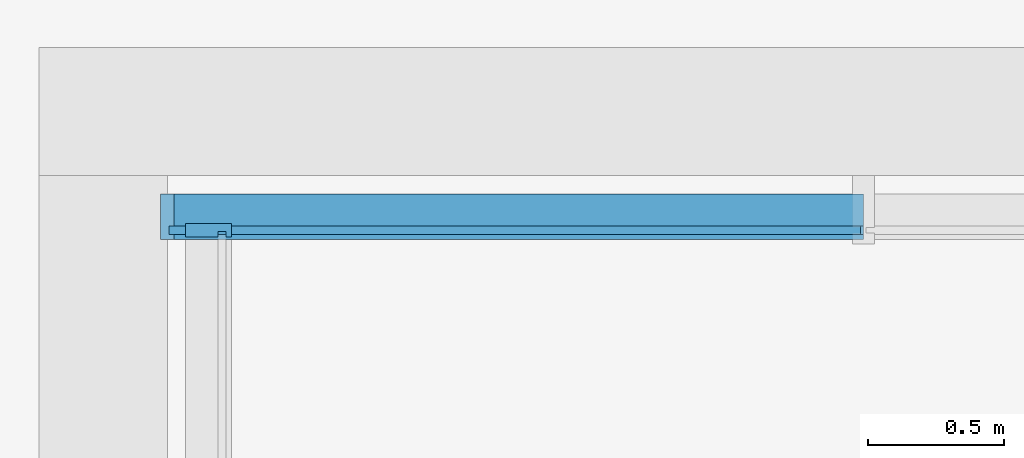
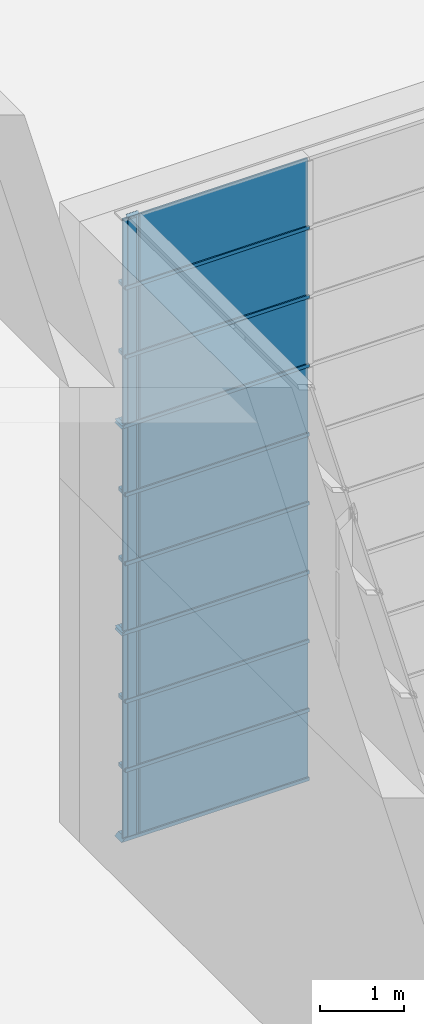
# One storey, part 29 of 105: 29 building element parts, 6 elements without a shape of their own.
"""IFC4 building model written with IfcOpenShell, lengths in millimetres."""

from ifc_helpers import new_model, entity, si_unit, converted_unit, derived_unit, direction, frame, origin_with_axes, place, context, subcontext, project, spatial, triangles, material, element, aggregate, save


model = new_model("IFC4")

# Units and contexts
model_context = context("Model", 3, precision=1e-05, world=origin_with_axes(), true_north=direction((0.0, 1.0)))
body_context = subcontext(model_context, "Body", "Model", "MODEL_VIEW")
ifc_project = project(units=[si_unit("LENGTHUNIT", "METRE", prefix="MILLI"), si_unit("AREAUNIT", "SQUARE_METRE"), si_unit("VOLUMEUNIT", "CUBIC_METRE"), converted_unit("PLANEANGLEUNIT", "DEGREE", entity("IfcLengthMeasure", 0.017453), si_unit("PLANEANGLEUNIT", "RADIAN"), dimensions=[0, 0, 0, 0, 0, 0, 0]), si_unit("SOLIDANGLEUNIT", "STERADIAN"), si_unit("MASSUNIT", "GRAM"), si_unit("TIMEUNIT", "SECOND"), si_unit("THERMODYNAMICTEMPERATUREUNIT", "DEGREE_CELSIUS"), si_unit("LUMINOUSINTENSITYUNIT", "LUMEN"), si_unit("POWERUNIT", "WATT"), derived_unit("THERMALTRANSMITTANCEUNIT", [(si_unit("POWERUNIT", "WATT"), 1), (si_unit("THERMODYNAMICTEMPERATUREUNIT", "KELVIN"), -1), (si_unit("AREAUNIT", "SQUARE_METRE"), -1)])], contexts=[model_context])

# Site, building, storey
site_placement = place(None, origin_with_axes())
site = spatial("IfcSite", under=ifc_project, at=site_placement, Name="Default Site", CompositionType="ELEMENT")
building_placement = place(site_placement, origin_with_axes())
building = spatial("IfcBuilding", under=site, at=building_placement, Name="Default Building", CompositionType="ELEMENT")
storey_placement = place(building_placement, origin_with_axes())
storey = spatial("IfcBuildingStorey", under=building, at=storey_placement, Name="OG - Story", CompositionType="ELEMENT", Elevation=0.0)

# Curtain wall, building element parts
curtain_wall_1_placement = place(storey_placement, origin_with_axes())
curtain_wall_1 = element("IfcCurtainWall", 1, at=curtain_wall_1_placement, inside=storey, Name="Fassade-005", PredefinedType="NOTDEFINED")
ifc_material_1 = material(Name="Normalglas")
building_element_part_1_placement = place(curtain_wall_1_placement, frame((52496.845873, -27789.262838, 3000.0), z_axis=(0.0, 0.0, 1.0), x_axis=(1.0, 0.0, 0.0)))
building_element_part_1 = element("IfcBuildingElementPart", 2, at=building_element_part_1_placement, material=ifc_material_1, Name="Normalglas", PredefinedType="NOTDEFINED", context=body_context, shape_type="Tessellation", body=[
    triangles([(1265.455, 15.0, 995.0), (-1270.454, 15.0, 995.0), (-1270.454, -14.999, 995.0), (1265.455, -14.999, 995.0), (1265.455, 15.0, 5.0), (-1270.454, 15.0, 5.0), (-1270.454, -14.999, 5.0), (1265.455, -14.999, 5.0)], [[1, 2, 3], [1, 3, 4], [1, 5, 6], [1, 6, 2], [2, 6, 7], [2, 7, 3], [4, 3, 7], [4, 7, 8], [5, 1, 4], [5, 4, 8], [6, 5, 8], [6, 8, 7]], closed=False),
])
building_element_part_2_placement = place(curtain_wall_1_placement, frame((52496.845873, -27789.262838, 3000.0), z_axis=(0.0, 0.0, 1.0), x_axis=(1.0, 0.0, 0.0)))
building_element_part_2 = element("IfcBuildingElementPart", 3, at=building_element_part_2_placement, material=ifc_material_1, Name="Normalglas", PredefinedType="NOTDEFINED", context=body_context, shape_type="Tessellation", body=[
    triangles([(1265.455, 15.0, 1995.0), (-1270.454, 15.0, 1995.0), (-1270.454, -14.999, 1995.0), (1265.455, -14.999, 1995.0), (1265.455, 15.0, 1005.0), (-1270.454, 15.0, 1005.0), (-1270.454, -14.999, 1005.0), (1265.455, -14.999, 1005.0)], [[1, 2, 3], [1, 3, 4], [1, 5, 6], [1, 6, 2], [2, 6, 7], [2, 7, 3], [4, 3, 7], [4, 7, 8], [5, 1, 4], [5, 4, 8], [6, 5, 8], [6, 8, 7]], closed=False),
])
building_element_part_3_placement = place(curtain_wall_1_placement, frame((52496.845873, -27789.262838, 3000.0), z_axis=(0.0, 0.0, 1.0), x_axis=(1.0, 0.0, 0.0)))
building_element_part_3 = element("IfcBuildingElementPart", 4, at=building_element_part_3_placement, material=ifc_material_1, Name="Normalglas", PredefinedType="NOTDEFINED", context=body_context, shape_type="Tessellation", body=[
    triangles([(1265.455, 15.0, 2995.0), (-1270.454, 15.0, 2995.0), (-1270.454, -14.999, 2995.0), (1265.455, -14.999, 2995.0), (1265.455, 15.0, 2005.0), (-1270.454, 15.0, 2005.0), (-1270.454, -14.999, 2005.0), (1265.455, -14.999, 2005.0)], [[1, 2, 3], [1, 3, 4], [1, 5, 6], [1, 6, 2], [2, 6, 7], [2, 7, 3], [4, 3, 7], [4, 7, 8], [5, 1, 4], [5, 4, 8], [6, 5, 8], [6, 8, 7]], closed=False),
])
ifc_material_2 = material(Name="Blech")
building_element_part_4_placement = place(curtain_wall_1_placement, frame((52496.845873, -27789.262838, 3000.0), z_axis=(0.0, 0.0, 1.0), x_axis=(1.0, 0.0, 0.0)))
building_element_part_4 = element("IfcBuildingElementPart", 5, at=building_element_part_4_placement, material=ifc_material_2, Name="Blech", PredefinedType="NOTDEFINED", context=body_context, shape_type="Tessellation", body=[
    triangles([(1275.455, 15.0, 25.0), (1275.455, 133.0, 25.0), (1275.455, 15.0, 5.0), (1275.455, 133.0, -24.999), (1275.455, -14.999, 5.0), (1275.455, -34.999, -24.999), (1275.455, -14.999, 25.0), (1275.455, -34.999, 25.0), (-1270.454, 15.0, 5.0), (-1270.454, -14.999, 5.0), (-1250.454, -14.999, 25.0), (-1250.454, -34.999, 25.0), (-1300.454, -34.999, -24.999), (-1300.454, 133.0, -24.999), (-1250.454, 133.0, 25.0), (-1250.454, 15.0, 25.0)], [[1, 2, 3], [3, 2, 4], [3, 4, 5], [5, 4, 6], [5, 6, 7], [7, 6, 8], [5, 3, 9], [5, 9, 10], [11, 7, 5], [11, 5, 10], [7, 11, 12], [7, 12, 8], [6, 8, 12], [6, 12, 13], [4, 6, 13], [4, 13, 14], [2, 4, 14], [2, 14, 15], [16, 1, 2], [16, 2, 15], [3, 1, 16], [3, 16, 9], [16, 15, 9], [9, 15, 14], [9, 14, 10], [10, 14, 13], [10, 13, 11], [11, 13, 12]], closed=False),
])
building_element_part_5_placement = place(curtain_wall_1_placement, frame((52496.845873, -27789.262838, 3000.0), z_axis=(0.0, 0.0, 1.0), x_axis=(1.0, 0.0, 0.0)))
building_element_part_5 = element("IfcBuildingElementPart", 6, at=building_element_part_5_placement, material=ifc_material_2, Name="Blech", PredefinedType="NOTDEFINED", context=body_context, shape_type="Tessellation", body=[
    triangles([(1275.455, 133.0, 1025.0), (1275.455, 15.0, 1025.0), (1275.455, 133.0, 975.0), (1275.455, 15.0, 1005.0), (1275.455, 15.0, 995.0), (1275.455, -14.999, 1005.0), (1275.455, -14.999, 995.0), (1275.455, -14.999, 975.0), (1275.455, -14.999, 1025.0), (1275.455, -34.999, 1025.0), (1275.455, -34.999, 975.0), (1275.455, 15.0, 975.0), (-1250.454, 15.0, 995.0), (-1250.454, 15.0, 975.0), (-1250.454, 133.0, 975.0), (-1250.454, 133.0, 1025.0), (-1250.454, 15.0, 1025.0), (-1250.454, 15.0, 1005.0), (-1250.454, -14.999, 1005.0), (-1250.454, -14.999, 1025.0), (-1250.454, -34.999, 1025.0), (-1250.454, -34.999, 975.0), (-1250.454, -14.999, 975.0), (-1250.454, -14.999, 995.0)], [[1, 2, 3], [3, 2, 4], [3, 4, 5], [5, 4, 6], [5, 6, 7], [8, 9, 10], [8, 10, 11], [3, 5, 12], [12, 5, 13], [12, 13, 14], [12, 14, 15], [12, 15, 3], [3, 15, 16], [3, 16, 1], [2, 1, 16], [2, 16, 17], [2, 17, 18], [2, 18, 4], [4, 18, 19], [4, 19, 6], [9, 6, 19], [9, 19, 20], [20, 21, 10], [20, 10, 9], [10, 21, 22], [10, 22, 11], [23, 8, 11], [23, 11, 22], [7, 8, 23], [7, 23, 24], [5, 7, 24], [5, 24, 13], [15, 14, 16], [16, 14, 13], [16, 13, 18], [18, 13, 24], [18, 24, 19], [20, 23, 22], [20, 22, 21], [16, 18, 17]], closed=False),
])
building_element_part_6_placement = place(curtain_wall_1_placement, frame((52496.845873, -27789.262838, 3000.0), z_axis=(0.0, 0.0, 1.0), x_axis=(1.0, 0.0, 0.0)))
building_element_part_6 = element("IfcBuildingElementPart", 7, at=building_element_part_6_placement, material=ifc_material_2, Name="Blech", PredefinedType="NOTDEFINED", context=body_context, shape_type="Tessellation", body=[
    triangles([(1275.455, 133.0, 2025.0), (1275.455, 15.0, 2025.0), (1275.455, 133.0, 1975.0), (1275.455, 15.0, 2005.0), (1275.455, 15.0, 1995.0), (1275.455, -14.999, 2005.0), (1275.455, -14.999, 1995.0), (1275.455, -14.999, 1975.0), (1275.455, -14.999, 2025.0), (1275.455, -34.999, 2025.0), (1275.455, -34.999, 1975.0), (1275.455, 15.0, 1975.0), (-1250.454, 15.0, 1995.0), (-1250.454, 15.0, 1975.0), (-1250.454, 133.0, 1975.0), (-1250.454, 133.0, 2025.0), (-1250.454, 15.0, 2025.0), (-1250.454, 15.0, 2005.0), (-1250.454, -14.999, 2005.0), (-1250.454, -14.999, 2025.0), (-1250.454, -34.999, 2025.0), (-1250.454, -34.999, 1975.0), (-1250.454, -14.999, 1975.0), (-1250.454, -14.999, 1995.0)], [[1, 2, 3], [3, 2, 4], [3, 4, 5], [5, 4, 6], [5, 6, 7], [8, 9, 10], [8, 10, 11], [3, 5, 12], [12, 5, 13], [12, 13, 14], [12, 14, 15], [12, 15, 3], [3, 15, 16], [3, 16, 1], [2, 1, 16], [2, 16, 17], [2, 17, 18], [2, 18, 4], [4, 18, 19], [4, 19, 6], [9, 6, 19], [9, 19, 20], [20, 21, 10], [20, 10, 9], [10, 21, 22], [10, 22, 11], [23, 8, 11], [23, 11, 22], [7, 8, 23], [7, 23, 24], [5, 7, 24], [5, 24, 13], [15, 14, 16], [16, 14, 13], [16, 13, 18], [18, 13, 24], [18, 24, 19], [20, 23, 22], [20, 22, 21], [16, 18, 17]], closed=False),
])
building_element_part_7_placement = place(curtain_wall_1_placement, frame((52496.845873, -27789.262838, 3000.0), z_axis=(0.0, 0.0, 1.0), x_axis=(1.0, 0.0, 0.0)))
building_element_part_7 = element("IfcBuildingElementPart", 8, at=building_element_part_7_placement, material=ifc_material_2, Name="Blech", PredefinedType="NOTDEFINED", context=body_context, shape_type="Tessellation", body=[
    triangles([(1275.455, 15.0, 2975.0), (1275.455, 133.0, 2975.0), (1275.455, 15.0, 2995.0), (1275.455, 133.0, 3025.0), (1275.455, -14.999, 2995.0), (1275.455, -34.999, 3025.0), (1275.455, -14.999, 2975.0), (1275.455, -34.999, 2975.0), (-1270.454, 15.0, 2995.0), (-1250.454, 15.0, 2975.0), (-1250.454, 133.0, 2975.0), (-1300.454, 133.0, 3025.0), (-1300.454, -34.999, 3025.0), (-1250.454, -34.999, 2975.0), (-1250.454, -14.999, 2975.0), (-1270.454, -14.999, 2995.0)], [[1, 2, 3], [3, 2, 4], [3, 4, 5], [5, 4, 6], [5, 6, 7], [7, 6, 8], [3, 9, 10], [3, 10, 1], [10, 11, 2], [10, 2, 1], [2, 11, 12], [2, 12, 4], [4, 12, 13], [4, 13, 6], [6, 13, 14], [6, 14, 8], [7, 8, 14], [7, 14, 15], [15, 16, 5], [15, 5, 7], [5, 16, 9], [5, 9, 3], [10, 11, 9], [9, 11, 12], [9, 12, 16], [16, 12, 13], [16, 13, 15], [15, 13, 14]], closed=False),
])
aggregate(curtain_wall_1, [building_element_part_1, building_element_part_2, building_element_part_3, building_element_part_4, building_element_part_5, building_element_part_6, building_element_part_7])

curtain_wall_2_placement = place(storey_placement, origin_with_axes())
curtain_wall_2 = element("IfcCurtainWall", 9, at=curtain_wall_2_placement, inside=storey, Name="Fassade-005", PredefinedType="NOTDEFINED")
building_element_part_8_placement = place(curtain_wall_2_placement, frame((52496.845873, -27789.262838, 6000.0), z_axis=(0.0, 0.0, 1.0), x_axis=(1.0, 0.0, 0.0)))
building_element_part_8 = element("IfcBuildingElementPart", 10, at=building_element_part_8_placement, material=ifc_material_1, Name="Normalglas", PredefinedType="NOTDEFINED", context=body_context, shape_type="Tessellation", body=[
    triangles([(1265.455, 15.0, 995.0), (-1270.454, 15.0, 995.0), (-1270.454, -14.999, 995.0), (1265.455, -14.999, 995.0), (1265.455, 15.0, 5.0), (-1270.454, 15.0, 5.0), (-1270.454, -14.999, 5.0), (1265.455, -14.999, 5.0)], [[1, 2, 3], [1, 3, 4], [1, 5, 6], [1, 6, 2], [2, 6, 7], [2, 7, 3], [4, 3, 7], [4, 7, 8], [5, 1, 4], [5, 4, 8], [6, 5, 8], [6, 8, 7]], closed=False),
])
building_element_part_9_placement = place(curtain_wall_2_placement, frame((52496.845873, -27789.262838, 6000.0), z_axis=(0.0, 0.0, 1.0), x_axis=(1.0, 0.0, 0.0)))
building_element_part_9 = element("IfcBuildingElementPart", 11, at=building_element_part_9_placement, material=ifc_material_1, Name="Normalglas", PredefinedType="NOTDEFINED", context=body_context, shape_type="Tessellation", body=[
    triangles([(1265.455, 15.0, 1995.0), (-1270.454, 15.0, 1995.0), (-1270.454, -14.999, 1995.0), (1265.455, -14.999, 1995.0), (1265.455, 15.0, 1005.0), (-1270.454, 15.0, 1005.0), (-1270.454, -14.999, 1005.0), (1265.455, -14.999, 1005.0)], [[1, 2, 3], [1, 3, 4], [1, 5, 6], [1, 6, 2], [2, 6, 7], [2, 7, 3], [4, 3, 7], [4, 7, 8], [5, 1, 4], [5, 4, 8], [6, 5, 8], [6, 8, 7]], closed=False),
])
building_element_part_10_placement = place(curtain_wall_2_placement, frame((52496.845873, -27789.262838, 6000.0), z_axis=(0.0, 0.0, 1.0), x_axis=(1.0, 0.0, 0.0)))
building_element_part_10 = element("IfcBuildingElementPart", 12, at=building_element_part_10_placement, material=ifc_material_1, Name="Normalglas", PredefinedType="NOTDEFINED", context=body_context, shape_type="Tessellation", body=[
    triangles([(1265.455, 15.0, 2995.0), (-1270.454, 15.0, 2995.0), (-1270.454, -14.999, 2995.0), (1265.455, -14.999, 2995.0), (1265.455, 15.0, 2005.0), (-1270.454, 15.0, 2005.0), (-1270.454, -14.999, 2005.0), (1265.455, -14.999, 2005.0)], [[1, 2, 3], [1, 3, 4], [1, 5, 6], [1, 6, 2], [2, 6, 7], [2, 7, 3], [4, 3, 7], [4, 7, 8], [5, 1, 4], [5, 4, 8], [6, 5, 8], [6, 8, 7]], closed=False),
])
building_element_part_11_placement = place(curtain_wall_2_placement, frame((52496.845873, -27789.262838, 6000.0), z_axis=(0.0, 0.0, 1.0), x_axis=(1.0, 0.0, 0.0)))
building_element_part_11 = element("IfcBuildingElementPart", 13, at=building_element_part_11_placement, material=ifc_material_2, Name="Blech", PredefinedType="NOTDEFINED", context=body_context, shape_type="Tessellation", body=[
    triangles([(1275.455, 15.0, 25.0), (1275.455, 133.0, 25.0), (1275.455, 15.0, 5.0), (1275.455, 133.0, -24.999), (1275.455, -14.999, 5.0), (1275.455, -34.999, -24.999), (1275.455, -14.999, 25.0), (1275.455, -34.999, 25.0), (-1270.454, 15.0, 5.0), (-1270.454, -14.999, 5.0), (-1250.454, -14.999, 25.0), (-1250.454, -34.999, 25.0), (-1300.454, -34.999, -24.999), (-1300.454, 133.0, -24.999), (-1250.454, 133.0, 25.0), (-1250.454, 15.0, 25.0)], [[1, 2, 3], [3, 2, 4], [3, 4, 5], [5, 4, 6], [5, 6, 7], [7, 6, 8], [5, 3, 9], [5, 9, 10], [11, 7, 5], [11, 5, 10], [7, 11, 12], [7, 12, 8], [6, 8, 12], [6, 12, 13], [4, 6, 13], [4, 13, 14], [2, 4, 14], [2, 14, 15], [16, 1, 2], [16, 2, 15], [3, 1, 16], [3, 16, 9], [16, 15, 9], [9, 15, 14], [9, 14, 10], [10, 14, 13], [10, 13, 11], [11, 13, 12]], closed=False),
])
building_element_part_12_placement = place(curtain_wall_2_placement, frame((52496.845873, -27789.262838, 6000.0), z_axis=(0.0, 0.0, 1.0), x_axis=(1.0, 0.0, 0.0)))
building_element_part_12 = element("IfcBuildingElementPart", 14, at=building_element_part_12_placement, material=ifc_material_2, Name="Blech", PredefinedType="NOTDEFINED", context=body_context, shape_type="Tessellation", body=[
    triangles([(1275.455, 133.0, 1025.0), (1275.455, 15.0, 1025.0), (1275.455, 133.0, 975.0), (1275.455, 15.0, 1005.0), (1275.455, 15.0, 995.0), (1275.455, -14.999, 1005.0), (1275.455, -14.999, 995.0), (1275.455, -14.999, 975.0), (1275.455, -14.999, 1025.0), (1275.455, -34.999, 1025.0), (1275.455, -34.999, 975.0), (1275.455, 15.0, 975.0), (-1250.454, 15.0, 995.0), (-1250.454, 15.0, 975.0), (-1250.454, 133.0, 975.0), (-1250.454, 133.0, 1025.0), (-1250.454, 15.0, 1025.0), (-1250.454, 15.0, 1005.0), (-1250.454, -14.999, 1005.0), (-1250.454, -14.999, 1025.0), (-1250.454, -34.999, 1025.0), (-1250.454, -34.999, 975.0), (-1250.454, -14.999, 975.0), (-1250.454, -14.999, 995.0)], [[1, 2, 3], [3, 2, 4], [3, 4, 5], [5, 4, 6], [5, 6, 7], [8, 9, 10], [8, 10, 11], [3, 5, 12], [12, 5, 13], [12, 13, 14], [12, 14, 15], [12, 15, 3], [3, 15, 16], [3, 16, 1], [2, 1, 16], [2, 16, 17], [2, 17, 18], [2, 18, 4], [4, 18, 19], [4, 19, 6], [9, 6, 19], [9, 19, 20], [20, 21, 10], [20, 10, 9], [10, 21, 22], [10, 22, 11], [23, 8, 11], [23, 11, 22], [7, 8, 23], [7, 23, 24], [5, 7, 24], [5, 24, 13], [15, 14, 16], [16, 14, 13], [16, 13, 18], [18, 13, 24], [18, 24, 19], [20, 23, 22], [20, 22, 21], [16, 18, 17]], closed=False),
])
building_element_part_13_placement = place(curtain_wall_2_placement, frame((52496.845873, -27789.262838, 6000.0), z_axis=(0.0, 0.0, 1.0), x_axis=(1.0, 0.0, 0.0)))
building_element_part_13 = element("IfcBuildingElementPart", 15, at=building_element_part_13_placement, material=ifc_material_2, Name="Blech", PredefinedType="NOTDEFINED", context=body_context, shape_type="Tessellation", body=[
    triangles([(1275.455, 133.0, 2025.0), (1275.455, 15.0, 2025.0), (1275.455, 133.0, 1975.0), (1275.455, 15.0, 2005.0), (1275.455, 15.0, 1995.0), (1275.455, -14.999, 2005.0), (1275.455, -14.999, 1995.0), (1275.455, -14.999, 1975.0), (1275.455, -14.999, 2025.0), (1275.455, -34.999, 2025.0), (1275.455, -34.999, 1975.0), (1275.455, 15.0, 1975.0), (-1250.454, 15.0, 1995.0), (-1250.454, 15.0, 1975.0), (-1250.454, 133.0, 1975.0), (-1250.454, 133.0, 2025.0), (-1250.454, 15.0, 2025.0), (-1250.454, 15.0, 2005.0), (-1250.454, -14.999, 2005.0), (-1250.454, -14.999, 2025.0), (-1250.454, -34.999, 2025.0), (-1250.454, -34.999, 1975.0), (-1250.454, -14.999, 1975.0), (-1250.454, -14.999, 1995.0)], [[1, 2, 3], [3, 2, 4], [3, 4, 5], [5, 4, 6], [5, 6, 7], [8, 9, 10], [8, 10, 11], [3, 5, 12], [12, 5, 13], [12, 13, 14], [12, 14, 15], [12, 15, 3], [3, 15, 16], [3, 16, 1], [2, 1, 16], [2, 16, 17], [2, 17, 18], [2, 18, 4], [4, 18, 19], [4, 19, 6], [9, 6, 19], [9, 19, 20], [20, 21, 10], [20, 10, 9], [10, 21, 22], [10, 22, 11], [23, 8, 11], [23, 11, 22], [7, 8, 23], [7, 23, 24], [5, 7, 24], [5, 24, 13], [15, 14, 16], [16, 14, 13], [16, 13, 18], [18, 13, 24], [18, 24, 19], [20, 23, 22], [20, 22, 21], [16, 18, 17]], closed=False),
])
building_element_part_14_placement = place(curtain_wall_2_placement, frame((52496.845873, -27789.262838, 6000.0), z_axis=(0.0, 0.0, 1.0), x_axis=(1.0, 0.0, 0.0)))
building_element_part_14 = element("IfcBuildingElementPart", 16, at=building_element_part_14_placement, material=ifc_material_2, Name="Blech", PredefinedType="NOTDEFINED", context=body_context, shape_type="Tessellation", body=[
    triangles([(1275.455, 15.0, 2975.0), (1275.455, 133.0, 2975.0), (1275.455, 15.0, 2995.0), (1275.455, 133.0, 3025.0), (1275.455, -14.999, 2995.0), (1275.455, -34.999, 3025.0), (1275.455, -14.999, 2975.0), (1275.455, -34.999, 2975.0), (-1270.454, 15.0, 2995.0), (-1250.454, 15.0, 2975.0), (-1250.454, 133.0, 2975.0), (-1300.454, 133.0, 3025.0), (-1300.454, -34.999, 3025.0), (-1250.454, -34.999, 2975.0), (-1250.454, -14.999, 2975.0), (-1270.454, -14.999, 2995.0)], [[1, 2, 3], [3, 2, 4], [3, 4, 5], [5, 4, 6], [5, 6, 7], [7, 6, 8], [3, 9, 10], [3, 10, 1], [10, 11, 2], [10, 2, 1], [2, 11, 12], [2, 12, 4], [4, 12, 13], [4, 13, 6], [6, 13, 14], [6, 14, 8], [7, 8, 14], [7, 14, 15], [15, 16, 5], [15, 5, 7], [5, 16, 9], [5, 9, 3], [10, 11, 9], [9, 11, 12], [9, 12, 16], [16, 12, 13], [16, 13, 15], [15, 13, 14]], closed=False),
])
aggregate(curtain_wall_2, [building_element_part_8, building_element_part_9, building_element_part_10, building_element_part_11, building_element_part_12, building_element_part_13, building_element_part_14])

curtain_wall_3_placement = place(storey_placement, origin_with_axes())
curtain_wall_3 = element("IfcCurtainWall", 17, at=curtain_wall_3_placement, inside=storey, Name="Fassade-005", PredefinedType="NOTDEFINED")
building_element_part_15_placement = place(curtain_wall_3_placement, frame((52496.845873, -27789.262838, 9000.0), z_axis=(0.0, 0.0, 1.0), x_axis=(1.0, 0.0, 0.0)))
building_element_part_15 = element("IfcBuildingElementPart", 18, at=building_element_part_15_placement, material=ifc_material_1, Name="Normalglas", PredefinedType="NOTDEFINED", context=body_context, shape_type="Tessellation", body=[
    triangles([(1265.455, 15.0, 995.0), (-1270.454, 15.0, 995.0), (-1270.454, -14.999, 995.0), (1265.455, -14.999, 995.0), (1265.455, 15.0, 5.0), (-1270.454, 15.0, 5.0), (-1270.454, -14.999, 5.0), (1265.455, -14.999, 5.0)], [[1, 2, 3], [1, 3, 4], [1, 5, 6], [1, 6, 2], [2, 6, 7], [2, 7, 3], [4, 3, 7], [4, 7, 8], [5, 1, 4], [5, 4, 8], [6, 5, 8], [6, 8, 7]], closed=False),
])
building_element_part_16_placement = place(curtain_wall_3_placement, frame((52496.845873, -27789.262838, 9000.0), z_axis=(0.0, 0.0, 1.0), x_axis=(1.0, 0.0, 0.0)))
building_element_part_16 = element("IfcBuildingElementPart", 19, at=building_element_part_16_placement, material=ifc_material_1, Name="Normalglas", PredefinedType="NOTDEFINED", context=body_context, shape_type="Tessellation", body=[
    triangles([(1265.455, 15.0, 1995.0), (-1270.454, 15.0, 1995.0), (-1270.454, -14.999, 1995.0), (1265.455, -14.999, 1995.0), (1265.455, 15.0, 1005.0), (-1270.454, 15.0, 1005.0), (-1270.454, -14.999, 1005.0), (1265.455, -14.999, 1005.0)], [[1, 2, 3], [1, 3, 4], [1, 5, 6], [1, 6, 2], [2, 6, 7], [2, 7, 3], [4, 3, 7], [4, 7, 8], [5, 1, 4], [5, 4, 8], [6, 5, 8], [6, 8, 7]], closed=False),
])
building_element_part_17_placement = place(curtain_wall_3_placement, frame((52496.845873, -27789.262838, 9000.0), z_axis=(0.0, 0.0, 1.0), x_axis=(1.0, 0.0, 0.0)))
building_element_part_17 = element("IfcBuildingElementPart", 20, at=building_element_part_17_placement, material=ifc_material_1, Name="Normalglas", PredefinedType="NOTDEFINED", context=body_context, shape_type="Tessellation", body=[
    triangles([(1265.455, 15.0, 2995.0), (-1270.454, 15.0, 2995.0), (-1270.454, -14.999, 2995.0), (1265.455, -14.999, 2995.0), (1265.455, 15.0, 2005.0), (-1270.454, 15.0, 2005.0), (-1270.454, -14.999, 2005.0), (1265.455, -14.999, 2005.0)], [[1, 2, 3], [1, 3, 4], [1, 5, 6], [1, 6, 2], [2, 6, 7], [2, 7, 3], [4, 3, 7], [4, 7, 8], [5, 1, 4], [5, 4, 8], [6, 5, 8], [6, 8, 7]], closed=False),
])
building_element_part_18_placement = place(curtain_wall_3_placement, frame((52496.845873, -27789.262838, 9000.0), z_axis=(0.0, 0.0, 1.0), x_axis=(1.0, 0.0, 0.0)))
building_element_part_18 = element("IfcBuildingElementPart", 21, at=building_element_part_18_placement, material=ifc_material_2, Name="Blech", PredefinedType="NOTDEFINED", context=body_context, shape_type="Tessellation", body=[
    triangles([(1275.455, 15.0, 25.0), (1275.455, 133.0, 25.0), (1275.455, 15.0, 5.0), (1275.455, 133.0, -24.999), (1275.455, -14.999, 5.0), (1275.455, -34.999, -24.999), (1275.455, -14.999, 25.0), (1275.455, -34.999, 25.0), (-1270.454, 15.0, 5.0), (-1270.454, -14.999, 5.0), (-1250.454, -14.999, 25.0), (-1250.454, -34.999, 25.0), (-1300.454, -34.999, -24.999), (-1300.454, 133.0, -24.999), (-1250.454, 133.0, 25.0), (-1250.454, 15.0, 25.0)], [[1, 2, 3], [3, 2, 4], [3, 4, 5], [5, 4, 6], [5, 6, 7], [7, 6, 8], [5, 3, 9], [5, 9, 10], [11, 7, 5], [11, 5, 10], [7, 11, 12], [7, 12, 8], [6, 8, 12], [6, 12, 13], [4, 6, 13], [4, 13, 14], [2, 4, 14], [2, 14, 15], [16, 1, 2], [16, 2, 15], [3, 1, 16], [3, 16, 9], [16, 15, 9], [9, 15, 14], [9, 14, 10], [10, 14, 13], [10, 13, 11], [11, 13, 12]], closed=False),
])
building_element_part_19_placement = place(curtain_wall_3_placement, frame((52496.845873, -27789.262838, 9000.0), z_axis=(0.0, 0.0, 1.0), x_axis=(1.0, 0.0, 0.0)))
building_element_part_19 = element("IfcBuildingElementPart", 22, at=building_element_part_19_placement, material=ifc_material_2, Name="Blech", PredefinedType="NOTDEFINED", context=body_context, shape_type="Tessellation", body=[
    triangles([(1275.455, 133.0, 1025.0), (1275.455, 15.0, 1025.0), (1275.455, 133.0, 975.0), (1275.455, 15.0, 1005.0), (1275.455, 15.0, 995.0), (1275.455, -14.999, 1005.0), (1275.455, -14.999, 995.0), (1275.455, -14.999, 975.0), (1275.455, -14.999, 1025.0), (1275.455, -34.999, 1025.0), (1275.455, -34.999, 975.0), (1275.455, 15.0, 975.0), (-1250.454, 15.0, 995.0), (-1250.454, 15.0, 975.0), (-1250.454, 133.0, 975.0), (-1250.454, 133.0, 1025.0), (-1250.454, 15.0, 1025.0), (-1250.454, 15.0, 1005.0), (-1250.454, -14.999, 1005.0), (-1250.454, -14.999, 1025.0), (-1250.454, -34.999, 1025.0), (-1250.454, -34.999, 975.0), (-1250.454, -14.999, 975.0), (-1250.454, -14.999, 995.0)], [[1, 2, 3], [3, 2, 4], [3, 4, 5], [5, 4, 6], [5, 6, 7], [8, 9, 10], [8, 10, 11], [3, 5, 12], [12, 5, 13], [12, 13, 14], [12, 14, 15], [12, 15, 3], [3, 15, 16], [3, 16, 1], [2, 1, 16], [2, 16, 17], [2, 17, 18], [2, 18, 4], [4, 18, 19], [4, 19, 6], [9, 6, 19], [9, 19, 20], [20, 21, 10], [20, 10, 9], [10, 21, 22], [10, 22, 11], [23, 8, 11], [23, 11, 22], [7, 8, 23], [7, 23, 24], [5, 7, 24], [5, 24, 13], [15, 14, 16], [16, 14, 13], [16, 13, 18], [18, 13, 24], [18, 24, 19], [20, 23, 22], [20, 22, 21], [16, 18, 17]], closed=False),
])
building_element_part_20_placement = place(curtain_wall_3_placement, frame((52496.845873, -27789.262838, 9000.0), z_axis=(0.0, 0.0, 1.0), x_axis=(1.0, 0.0, 0.0)))
building_element_part_20 = element("IfcBuildingElementPart", 23, at=building_element_part_20_placement, material=ifc_material_2, Name="Blech", PredefinedType="NOTDEFINED", context=body_context, shape_type="Tessellation", body=[
    triangles([(1275.455, 133.0, 2025.0), (1275.455, 15.0, 2025.0), (1275.455, 133.0, 1975.0), (1275.455, 15.0, 2005.0), (1275.455, 15.0, 1995.0), (1275.455, -14.999, 2005.0), (1275.455, -14.999, 1995.0), (1275.455, -14.999, 1975.0), (1275.455, -14.999, 2025.0), (1275.455, -34.999, 2025.0), (1275.455, -34.999, 1975.0), (1275.455, 15.0, 1975.0), (-1250.454, 15.0, 1995.0), (-1250.454, 15.0, 1975.0), (-1250.454, 133.0, 1975.0), (-1250.454, 133.0, 2025.0), (-1250.454, 15.0, 2025.0), (-1250.454, 15.0, 2005.0), (-1250.454, -14.999, 2005.0), (-1250.454, -14.999, 2025.0), (-1250.454, -34.999, 2025.0), (-1250.454, -34.999, 1975.0), (-1250.454, -14.999, 1975.0), (-1250.454, -14.999, 1995.0)], [[1, 2, 3], [3, 2, 4], [3, 4, 5], [5, 4, 6], [5, 6, 7], [8, 9, 10], [8, 10, 11], [3, 5, 12], [12, 5, 13], [12, 13, 14], [12, 14, 15], [12, 15, 3], [3, 15, 16], [3, 16, 1], [2, 1, 16], [2, 16, 17], [2, 17, 18], [2, 18, 4], [4, 18, 19], [4, 19, 6], [9, 6, 19], [9, 19, 20], [20, 21, 10], [20, 10, 9], [10, 21, 22], [10, 22, 11], [23, 8, 11], [23, 11, 22], [7, 8, 23], [7, 23, 24], [5, 7, 24], [5, 24, 13], [15, 14, 16], [16, 14, 13], [16, 13, 18], [18, 13, 24], [18, 24, 19], [20, 23, 22], [20, 22, 21], [16, 18, 17]], closed=False),
])
aggregate(curtain_wall_3, [building_element_part_15, building_element_part_16, building_element_part_17, building_element_part_18, building_element_part_19, building_element_part_20])

curtain_wall_4_placement = place(storey_placement, origin_with_axes())
curtain_wall_4 = element("IfcCurtainWall", 24, at=curtain_wall_4_placement, inside=storey, Name="Fassade-006", PredefinedType="NOTDEFINED")
building_element_part_21_placement = place(curtain_wall_4_placement, frame((51421.391327, -39309.262838, 3000.0), z_axis=(0.0, 0.0, 1.0), x_axis=(1.0, 0.0, 0.0)))
building_element_part_21 = element("IfcBuildingElementPart", 25, at=building_element_part_21_placement, material=ifc_material_2, Name="Blech", PredefinedType="NOTDEFINED", context=body_context, shape_type="Tessellation", body=[
    triangles([(15.0, 11495.0, 1000.0), (15.0, 11515.0, 1000.0), (35.0, 11545.0, 1000.0), (-14.999, 11515.0, 1000.0), (-132.999, 11495.0, 1000.0), (-14.999, 11495.0, 1000.0), (-132.999, 11545.0, 1000.0), (35.0, 11495.0, 1000.0), (-14.999, 11515.0, 5.0), (15.0, 11515.0, 5.0), (15.0, 11495.0, 25.0), (35.0, 11495.0, 25.0), (35.0, 11545.0, -24.999), (-132.999, 11545.0, -24.999), (-132.999, 11495.0, 25.0), (-14.999, 11495.0, 25.0)], [[1, 2, 3], [3, 2, 4], [3, 4, 5], [5, 4, 6], [3, 5, 7], [1, 3, 8], [2, 4, 9], [2, 9, 10], [11, 1, 2], [11, 2, 10], [1, 11, 12], [1, 12, 8], [3, 8, 12], [3, 12, 13], [7, 3, 13], [7, 13, 14], [5, 7, 14], [5, 14, 15], [16, 6, 5], [16, 5, 15], [4, 6, 16], [4, 16, 9], [16, 15, 9], [9, 15, 14], [9, 14, 10], [10, 14, 13], [10, 13, 12], [10, 12, 11]], closed=False),
])
building_element_part_22_placement = place(curtain_wall_4_placement, frame((51421.391327, -39309.262838, 3000.0), z_axis=(0.0, 0.0, 1.0), x_axis=(1.0, 0.0, 0.0)))
building_element_part_22 = element("IfcBuildingElementPart", 26, at=building_element_part_22_placement, material=ifc_material_2, Name="Blech", PredefinedType="NOTDEFINED", context=body_context, shape_type="Tessellation", body=[
    triangles([(15.0, 11495.0, 2000.0), (15.0, 11515.0, 2000.0), (35.0, 11545.0, 2000.0), (-14.999, 11515.0, 2000.0), (-132.999, 11495.0, 2000.0), (-14.999, 11495.0, 2000.0), (-132.999, 11545.0, 2000.0), (35.0, 11495.0, 2000.0), (-14.999, 11515.0, 1000.0), (15.0, 11515.0, 1000.0), (15.0, 11495.0, 1000.0), (35.0, 11495.0, 1000.0), (35.0, 11545.0, 1000.0), (-132.999, 11545.0, 1000.0), (-132.999, 11495.0, 1000.0), (-14.999, 11495.0, 1000.0)], [[1, 2, 3], [3, 2, 4], [3, 4, 5], [5, 4, 6], [3, 5, 7], [1, 3, 8], [2, 4, 9], [2, 9, 10], [11, 1, 2], [11, 2, 10], [1, 11, 12], [1, 12, 8], [13, 3, 8], [13, 8, 12], [14, 7, 3], [14, 3, 13], [15, 5, 7], [15, 7, 14], [16, 6, 5], [16, 5, 15], [4, 6, 16], [4, 16, 9], [13, 12, 11], [13, 11, 10], [13, 10, 9], [13, 9, 15], [13, 15, 14], [16, 15, 9]], closed=False),
])
building_element_part_23_placement = place(curtain_wall_4_placement, frame((51421.391327, -39309.262838, 3000.0), z_axis=(0.0, 0.0, 1.0), x_axis=(1.0, 0.0, 0.0)))
building_element_part_23 = element("IfcBuildingElementPart", 27, at=building_element_part_23_placement, material=ifc_material_2, Name="Blech", PredefinedType="NOTDEFINED", context=body_context, shape_type="Tessellation", body=[
    triangles([(15.0, 11515.0, 2995.0), (-14.999, 11515.0, 2995.0), (-132.999, 11545.0, 3025.0), (35.0, 11545.0, 3025.0), (35.0, 11495.0, 2975.0), (15.0, 11495.0, 2975.0), (-14.999, 11495.0, 2975.0), (-132.999, 11495.0, 2975.0), (-14.999, 11515.0, 2000.0), (15.0, 11515.0, 2000.0), (15.0, 11495.0, 2000.0), (35.0, 11495.0, 2000.0), (35.0, 11545.0, 2000.0), (-132.999, 11545.0, 2000.0), (-132.999, 11495.0, 2000.0), (-14.999, 11495.0, 2000.0)], [[1, 2, 3], [1, 3, 4], [1, 4, 5], [1, 5, 6], [7, 8, 3], [7, 3, 2], [1, 2, 9], [1, 9, 10], [11, 6, 1], [11, 1, 10], [6, 11, 12], [6, 12, 5], [13, 4, 5], [13, 5, 12], [14, 3, 4], [14, 4, 13], [15, 8, 3], [15, 3, 14], [16, 7, 8], [16, 8, 15], [2, 7, 16], [2, 16, 9], [13, 12, 11], [13, 11, 10], [13, 10, 9], [13, 9, 15], [13, 15, 14], [16, 15, 9]], closed=False),
])
aggregate(curtain_wall_4, [building_element_part_21, building_element_part_22, building_element_part_23])

curtain_wall_5_placement = place(storey_placement, origin_with_axes())
curtain_wall_5 = element("IfcCurtainWall", 28, at=curtain_wall_5_placement, inside=storey, Name="Fassade-006", PredefinedType="NOTDEFINED")
building_element_part_24_placement = place(curtain_wall_5_placement, frame((51421.391327, -39309.262838, 6000.0), z_axis=(0.0, 0.0, 1.0), x_axis=(1.0, 0.0, 0.0)))
building_element_part_24 = element("IfcBuildingElementPart", 29, at=building_element_part_24_placement, material=ifc_material_2, Name="Blech", PredefinedType="NOTDEFINED", context=body_context, shape_type="Tessellation", body=[
    triangles([(15.0, 11495.0, 1000.0), (15.0, 11515.0, 1000.0), (35.0, 11545.0, 1000.0), (-14.999, 11515.0, 1000.0), (-132.999, 11495.0, 1000.0), (-14.999, 11495.0, 1000.0), (-132.999, 11545.0, 1000.0), (35.0, 11495.0, 1000.0), (-14.999, 11515.0, 5.0), (15.0, 11515.0, 5.0), (15.0, 11495.0, 25.0), (35.0, 11495.0, 25.0), (35.0, 11545.0, -24.999), (-132.999, 11545.0, -24.999), (-132.999, 11495.0, 25.0), (-14.999, 11495.0, 25.0)], [[1, 2, 3], [3, 2, 4], [3, 4, 5], [5, 4, 6], [3, 5, 7], [1, 3, 8], [2, 4, 9], [2, 9, 10], [11, 1, 2], [11, 2, 10], [1, 11, 12], [1, 12, 8], [3, 8, 12], [3, 12, 13], [7, 3, 13], [7, 13, 14], [5, 7, 14], [5, 14, 15], [16, 6, 5], [16, 5, 15], [4, 6, 16], [4, 16, 9], [16, 15, 9], [9, 15, 14], [9, 14, 10], [10, 14, 13], [10, 13, 12], [10, 12, 11]], closed=False),
])
building_element_part_25_placement = place(curtain_wall_5_placement, frame((51421.391327, -39309.262838, 6000.0), z_axis=(0.0, 0.0, 1.0), x_axis=(1.0, 0.0, 0.0)))
building_element_part_25 = element("IfcBuildingElementPart", 30, at=building_element_part_25_placement, material=ifc_material_2, Name="Blech", PredefinedType="NOTDEFINED", context=body_context, shape_type="Tessellation", body=[
    triangles([(15.0, 11495.0, 2000.0), (15.0, 11515.0, 2000.0), (35.0, 11545.0, 2000.0), (-14.999, 11515.0, 2000.0), (-132.999, 11495.0, 2000.0), (-14.999, 11495.0, 2000.0), (-132.999, 11545.0, 2000.0), (35.0, 11495.0, 2000.0), (-14.999, 11515.0, 1000.0), (15.0, 11515.0, 1000.0), (15.0, 11495.0, 1000.0), (35.0, 11495.0, 1000.0), (35.0, 11545.0, 1000.0), (-132.999, 11545.0, 1000.0), (-132.999, 11495.0, 1000.0), (-14.999, 11495.0, 1000.0)], [[1, 2, 3], [3, 2, 4], [3, 4, 5], [5, 4, 6], [3, 5, 7], [1, 3, 8], [2, 4, 9], [2, 9, 10], [11, 1, 2], [11, 2, 10], [1, 11, 12], [1, 12, 8], [13, 3, 8], [13, 8, 12], [14, 7, 3], [14, 3, 13], [15, 5, 7], [15, 7, 14], [16, 6, 5], [16, 5, 15], [4, 6, 16], [4, 16, 9], [13, 12, 11], [13, 11, 10], [13, 10, 9], [13, 9, 15], [13, 15, 14], [16, 15, 9]], closed=False),
])
building_element_part_26_placement = place(curtain_wall_5_placement, frame((51421.391327, -39309.262838, 6000.0), z_axis=(0.0, 0.0, 1.0), x_axis=(1.0, 0.0, 0.0)))
building_element_part_26 = element("IfcBuildingElementPart", 31, at=building_element_part_26_placement, material=ifc_material_2, Name="Blech", PredefinedType="NOTDEFINED", context=body_context, shape_type="Tessellation", body=[
    triangles([(15.0, 11515.0, 2995.0), (-14.999, 11515.0, 2995.0), (-132.999, 11545.0, 3025.0), (35.0, 11545.0, 3025.0), (35.0, 11495.0, 2975.0), (15.0, 11495.0, 2975.0), (-14.999, 11495.0, 2975.0), (-132.999, 11495.0, 2975.0), (-14.999, 11515.0, 2000.0), (15.0, 11515.0, 2000.0), (15.0, 11495.0, 2000.0), (35.0, 11495.0, 2000.0), (35.0, 11545.0, 2000.0), (-132.999, 11545.0, 2000.0), (-132.999, 11495.0, 2000.0), (-14.999, 11495.0, 2000.0)], [[1, 2, 3], [1, 3, 4], [1, 4, 5], [1, 5, 6], [7, 8, 3], [7, 3, 2], [1, 2, 9], [1, 9, 10], [11, 6, 1], [11, 1, 10], [6, 11, 12], [6, 12, 5], [13, 4, 5], [13, 5, 12], [14, 3, 4], [14, 4, 13], [15, 8, 3], [15, 3, 14], [16, 7, 8], [16, 8, 15], [2, 7, 16], [2, 16, 9], [13, 12, 11], [13, 11, 10], [13, 10, 9], [13, 9, 15], [13, 15, 14], [16, 15, 9]], closed=False),
])
aggregate(curtain_wall_5, [building_element_part_24, building_element_part_25, building_element_part_26])

curtain_wall_6_placement = place(storey_placement, origin_with_axes())
curtain_wall_6 = element("IfcCurtainWall", 32, at=curtain_wall_6_placement, inside=storey, Name="Fassade-006", PredefinedType="NOTDEFINED")
building_element_part_27_placement = place(curtain_wall_6_placement, frame((51421.391327, -39309.262838, 9000.0), z_axis=(0.0, 0.0, 1.0), x_axis=(1.0, 0.0, 0.0)))
building_element_part_27 = element("IfcBuildingElementPart", 33, at=building_element_part_27_placement, material=ifc_material_2, Name="Blech", PredefinedType="NOTDEFINED", context=body_context, shape_type="Tessellation", body=[
    triangles([(15.0, 11495.0, 1000.0), (15.0, 11515.0, 1000.0), (35.0, 11545.0, 1000.0), (-14.999, 11515.0, 1000.0), (-132.999, 11495.0, 1000.0), (-14.999, 11495.0, 1000.0), (-132.999, 11545.0, 1000.0), (35.0, 11495.0, 1000.0), (-14.999, 11515.0, 5.0), (15.0, 11515.0, 5.0), (15.0, 11495.0, 25.0), (35.0, 11495.0, 25.0), (35.0, 11545.0, -24.999), (-132.999, 11545.0, -24.999), (-132.999, 11495.0, 25.0), (-14.999, 11495.0, 25.0)], [[1, 2, 3], [3, 2, 4], [3, 4, 5], [5, 4, 6], [3, 5, 7], [1, 3, 8], [2, 4, 9], [2, 9, 10], [11, 1, 2], [11, 2, 10], [1, 11, 12], [1, 12, 8], [3, 8, 12], [3, 12, 13], [7, 3, 13], [7, 13, 14], [5, 7, 14], [5, 14, 15], [16, 6, 5], [16, 5, 15], [4, 6, 16], [4, 16, 9], [16, 15, 9], [9, 15, 14], [9, 14, 10], [10, 14, 13], [10, 13, 12], [10, 12, 11]], closed=False),
])
building_element_part_28_placement = place(curtain_wall_6_placement, frame((51421.391327, -39309.262838, 9000.0), z_axis=(0.0, 0.0, 1.0), x_axis=(1.0, 0.0, 0.0)))
building_element_part_28 = element("IfcBuildingElementPart", 34, at=building_element_part_28_placement, material=ifc_material_2, Name="Blech", PredefinedType="NOTDEFINED", context=body_context, shape_type="Tessellation", body=[
    triangles([(15.0, 11495.0, 2000.0), (15.0, 11515.0, 2000.0), (35.0, 11545.0, 2000.0), (-14.999, 11515.0, 2000.0), (-132.999, 11495.0, 2000.0), (-14.999, 11495.0, 2000.0), (-132.999, 11545.0, 2000.0), (35.0, 11495.0, 2000.0), (-14.999, 11515.0, 1000.0), (15.0, 11515.0, 1000.0), (15.0, 11495.0, 1000.0), (35.0, 11495.0, 1000.0), (35.0, 11545.0, 1000.0), (-132.999, 11545.0, 1000.0), (-132.999, 11495.0, 1000.0), (-14.999, 11495.0, 1000.0)], [[1, 2, 3], [3, 2, 4], [3, 4, 5], [5, 4, 6], [3, 5, 7], [1, 3, 8], [2, 4, 9], [2, 9, 10], [11, 1, 2], [11, 2, 10], [1, 11, 12], [1, 12, 8], [13, 3, 8], [13, 8, 12], [14, 7, 3], [14, 3, 13], [15, 5, 7], [15, 7, 14], [16, 6, 5], [16, 5, 15], [4, 6, 16], [4, 16, 9], [13, 12, 11], [13, 11, 10], [13, 10, 9], [13, 9, 15], [13, 15, 14], [16, 15, 9]], closed=False),
])
building_element_part_29_placement = place(curtain_wall_6_placement, frame((51421.391327, -39309.262838, 9000.0), z_axis=(0.0, 0.0, 1.0), x_axis=(1.0, 0.0, 0.0)))
building_element_part_29 = element("IfcBuildingElementPart", 35, at=building_element_part_29_placement, material=ifc_material_2, Name="Blech", PredefinedType="NOTDEFINED", context=body_context, shape_type="Tessellation", body=[
    triangles([(15.0, 11515.0, 2995.0), (-14.999, 11515.0, 2995.0), (-132.999, 11545.0, 3025.0), (35.0, 11545.0, 3025.0), (35.0, 11495.0, 2975.0), (15.0, 11495.0, 2975.0), (-14.999, 11495.0, 2975.0), (-132.999, 11495.0, 2975.0), (-14.999, 11515.0, 2000.0), (15.0, 11515.0, 2000.0), (15.0, 11495.0, 2000.0), (35.0, 11495.0, 2000.0), (35.0, 11545.0, 2000.0), (-132.999, 11545.0, 2000.0), (-132.999, 11495.0, 2000.0), (-14.999, 11495.0, 2000.0)], [[1, 2, 3], [1, 3, 4], [1, 4, 5], [1, 5, 6], [7, 8, 3], [7, 3, 2], [1, 2, 9], [1, 9, 10], [11, 6, 1], [11, 1, 10], [6, 11, 12], [6, 12, 5], [13, 4, 5], [13, 5, 12], [14, 3, 4], [14, 4, 13], [15, 8, 3], [15, 3, 14], [16, 7, 8], [16, 8, 15], [2, 7, 16], [2, 16, 9], [13, 12, 11], [13, 11, 10], [13, 10, 9], [13, 9, 15], [13, 15, 14], [16, 15, 9]], closed=False),
])
aggregate(curtain_wall_6, [building_element_part_27, building_element_part_28, building_element_part_29])

save(model, "model.ifc")
